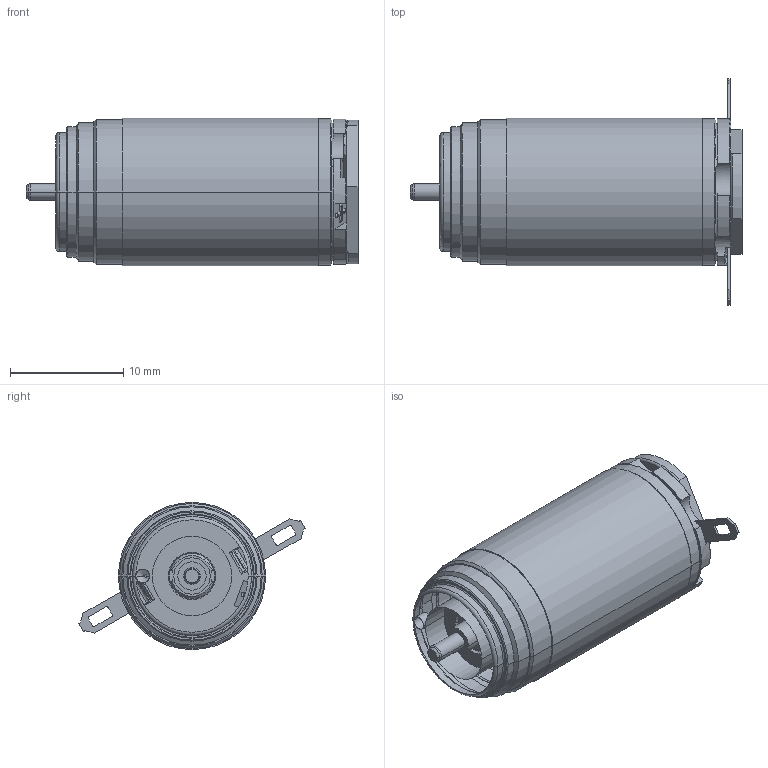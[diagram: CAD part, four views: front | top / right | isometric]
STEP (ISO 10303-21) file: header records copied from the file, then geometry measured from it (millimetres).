
FILE_DESCRIPTION((''),'2;1');
FILE_NAME('118536_15W_1W_G_SW0001','2016-08-22T',('mmagpetk'),(''),'CREO PARAMETRIC BY PTC INC, 2016050','CREO PARAMETRIC BY PTC INC, 2016050','');
FILE_SCHEMA(('CONFIG_CONTROL_DESIGN'));
Length unit declared in the file: millimetre
Products named in the file (1): 118536_15W_1W_G_SW0001
Bounding box: 29.3 x 20.01 x 13 mm (x, y, z)
Volume: 3295.8 mm3; surface area: 1682.6 mm2
Topology: 1 solids, 2 shells, 220 faces, 576 edges, 360 vertices
Faces by surface type: plane 95, cylinder 78, cone 33, torus 10, bspline 4
Entity records: 8946 total; most frequent: CARTESIAN_POINT 1579, DIRECTION 1201, ORIENTED_EDGE 1148, PRESENTATION_STYLE_ASSIGNMENT 575, STYLED_ITEM 575, CURVE_STYLE 574, EDGE_CURVE 574, AXIS2_PLACEMENT_3D 454
